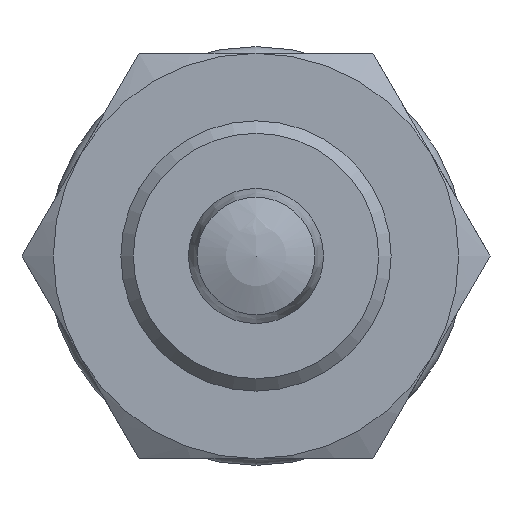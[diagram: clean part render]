
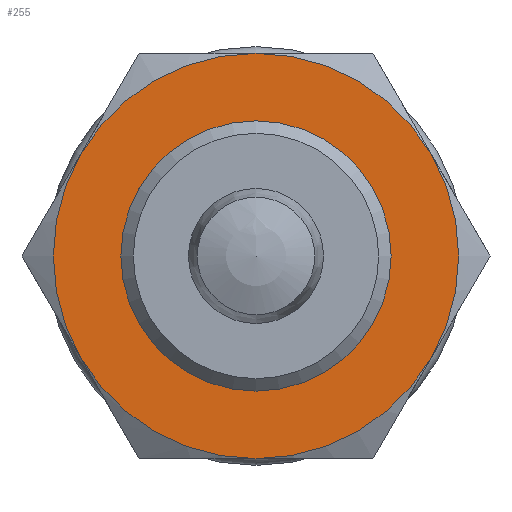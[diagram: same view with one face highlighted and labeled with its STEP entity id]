
A CAD part, front view. The second image highlights one B-rep face of the part: STEP entity #255.
In plain terms, the highlighted planar face has unit normal (0, -1, 0) as drawn and (0, 1, 0) by its records, which use the part's own axes.
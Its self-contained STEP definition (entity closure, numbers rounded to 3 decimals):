
#255 = ADVANCED_FACE( '', ( #393, #394 ), #395, .F. );
#393 = FACE_OUTER_BOUND( '', #581, .T. );
#394 = FACE_BOUND( '', #582, .T. );
#395 = PLANE( '', #583 );
#581 = EDGE_LOOP( '', ( #912, #913, #914, #915, #916, #917 ) );
#582 = EDGE_LOOP( '', ( #918 ) );
#583 = AXIS2_PLACEMENT_3D( '', #919, #920, #921 );
#912 = ORIENTED_EDGE( '', *, *, #1077, .F. );
#913 = ORIENTED_EDGE( '', *, *, #1079, .F. );
#914 = ORIENTED_EDGE( '', *, *, #1075, .F. );
#915 = ORIENTED_EDGE( '', *, *, #1082, .F. );
#916 = ORIENTED_EDGE( '', *, *, #1081, .F. );
#917 = ORIENTED_EDGE( '', *, *, #1076, .F. );
#918 = ORIENTED_EDGE( '', *, *, #1083, .T. );
#919 = CARTESIAN_POINT( '', ( 0., 10., 0. ) );
#920 = DIRECTION( '', ( 0., -1., 0. ) );
#921 = DIRECTION( '', ( 0., 0., -1. ) );
#1075 = EDGE_CURVE( '', #1199, #1208, #1239, .T. );
#1076 = EDGE_CURVE( '', #1226, #1232, #1240, .T. );
#1077 = EDGE_CURVE( '', #1241, #1226, #1242, .T. );
#1079 = EDGE_CURVE( '', #1208, #1241, #1244, .T. );
#1081 = EDGE_CURVE( '', #1232, #1236, #1246, .T. );
#1082 = EDGE_CURVE( '', #1236, #1199, #1247, .T. );
#1083 = EDGE_CURVE( '', #1248, #1248, #1249, .T. );
#1199 = VERTEX_POINT( '', #1467 );
#1208 = VERTEX_POINT( '', #1503 );
#1226 = VERTEX_POINT( '', #1561 );
#1232 = VERTEX_POINT( '', #1587 );
#1236 = VERTEX_POINT( '', #1612 );
#1239 = CIRCLE( '', #1627, 15. );
#1240 = CIRCLE( '', #1628, 15. );
#1241 = VERTEX_POINT( '', #1629 );
#1242 = CIRCLE( '', #1630, 15. );
#1244 = CIRCLE( '', #1637, 15. );
#1246 = CIRCLE( '', #1646, 15. );
#1247 = CIRCLE( '', #1647, 15. );
#1248 = VERTEX_POINT( '', #1648 );
#1249 = CIRCLE( '', #1649, 10. );
#1467 = CARTESIAN_POINT( '', ( -12.99, 10., -7.5 ) );
#1503 = CARTESIAN_POINT( '', ( 0., 10., -15. ) );
#1561 = CARTESIAN_POINT( '', ( 12.99, 10., 7.5 ) );
#1587 = CARTESIAN_POINT( '', ( 0., 10., 15. ) );
#1612 = CARTESIAN_POINT( '', ( -12.99, 10., 7.5 ) );
#1627 = AXIS2_PLACEMENT_3D( '', #1787, #1788, #1789 );
#1628 = AXIS2_PLACEMENT_3D( '', #1790, #1791, #1792 );
#1629 = CARTESIAN_POINT( '', ( 12.99, 10., -7.5 ) );
#1630 = AXIS2_PLACEMENT_3D( '', #1793, #1794, #1795 );
#1637 = AXIS2_PLACEMENT_3D( '', #1796, #1797, #1798 );
#1646 = AXIS2_PLACEMENT_3D( '', #1799, #1800, #1801 );
#1647 = AXIS2_PLACEMENT_3D( '', #1802, #1803, #1804 );
#1648 = CARTESIAN_POINT( '', ( 0., 10., -10. ) );
#1649 = AXIS2_PLACEMENT_3D( '', #1805, #1806, #1807 );
#1787 = CARTESIAN_POINT( '', ( 0., 10., 0. ) );
#1788 = DIRECTION( '', ( 0., -1., 0. ) );
#1789 = DIRECTION( '', ( 0., 0., -1. ) );
#1790 = CARTESIAN_POINT( '', ( 0., 10., 0. ) );
#1791 = DIRECTION( '', ( 0., -1., 0. ) );
#1792 = DIRECTION( '', ( 0., 0., -1. ) );
#1793 = CARTESIAN_POINT( '', ( 0., 10., 0. ) );
#1794 = DIRECTION( '', ( 0., -1., 0. ) );
#1795 = DIRECTION( '', ( 0., 0., -1. ) );
#1796 = CARTESIAN_POINT( '', ( 0., 10., 0. ) );
#1797 = DIRECTION( '', ( 0., -1., 0. ) );
#1798 = DIRECTION( '', ( 0., 0., -1. ) );
#1799 = CARTESIAN_POINT( '', ( 0., 10., 0. ) );
#1800 = DIRECTION( '', ( 0., -1., 0. ) );
#1801 = DIRECTION( '', ( 0., 0., -1. ) );
#1802 = CARTESIAN_POINT( '', ( 0., 10., 0. ) );
#1803 = DIRECTION( '', ( 0., -1., 0. ) );
#1804 = DIRECTION( '', ( 0., 0., -1. ) );
#1805 = CARTESIAN_POINT( '', ( 0., 10., 0. ) );
#1806 = DIRECTION( '', ( 0., -1., 0. ) );
#1807 = DIRECTION( '', ( 0., 0., -1. ) );
